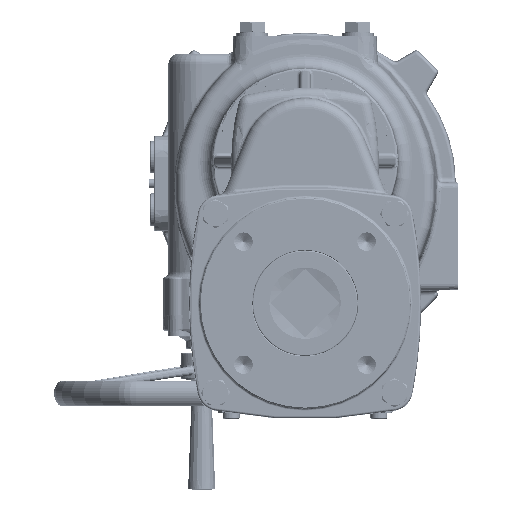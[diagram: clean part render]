
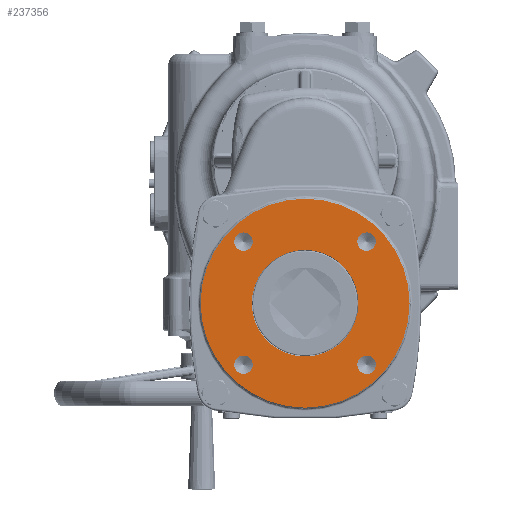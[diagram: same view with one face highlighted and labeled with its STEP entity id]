
A CAD part, front view. The second image highlights one B-rep face of the part: STEP entity #237356.
In plain terms, the highlighted planar face has unit normal (0, -1, 0).
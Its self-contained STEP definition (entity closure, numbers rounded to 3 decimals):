
#273 = AXIS2_PLACEMENT_3D ( 'NONE', #225780, #93295, #248047 ) ;
#1851 = VERTEX_POINT ( 'NONE', #142660 ) ;
#8616 = FACE_OUTER_BOUND ( 'NONE', #153223, .T. ) ;
#9376 = CARTESIAN_POINT ( 'NONE',  ( -50.5, -391., -113.5 ) ) ;
#9702 = AXIS2_PLACEMENT_3D ( 'NONE', #71869, #226482, #94020 ) ;
#10871 = EDGE_CURVE ( 'NONE', #113179, #77395, #225653, .T. ) ;
#11140 = ORIENTED_EDGE ( 'NONE', *, *, #191291, .F. ) ;
#11917 = DIRECTION ( 'NONE',  ( -1., 0., 0. ) ) ;
#12105 = AXIS2_PLACEMENT_3D ( 'NONE', #31600, #186193, #53893 ) ;
#15472 = FACE_BOUND ( 'NONE', #57811, .T. ) ;
#17731 = CARTESIAN_POINT ( 'NONE',  ( 50.5, -391., -113.5 ) ) ;
#17769 = CARTESIAN_POINT ( 'NONE',  ( -58.336, -391., -55.164 ) ) ;
#23621 = VERTEX_POINT ( 'NONE', #282229 ) ;
#23957 = VERTEX_POINT ( 'NONE', #105025 ) ;
#28973 = CIRCLE ( 'NONE', #255206, 8.75 ) ;
#30115 = CIRCLE ( 'NONE', #222055, 50.5 ) ;
#31600 = CARTESIAN_POINT ( 'NONE',  ( 0., -391., -113.5 ) ) ;
#33805 = ORIENTED_EDGE ( 'NONE', *, *, #251068, .F. ) ;
#40038 = DIRECTION ( 'NONE',  ( -1., 0., 0. ) ) ;
#40436 = DIRECTION ( 'NONE',  ( 0., 1., 0. ) ) ;
#40715 = CARTESIAN_POINT ( 'NONE',  ( 0., -391., -113.5 ) ) ;
#43686 = CIRCLE ( 'NONE', #275882, 8.75 ) ;
#45930 = CIRCLE ( 'NONE', #273, 8.75 ) ;
#47025 = ORIENTED_EDGE ( 'NONE', *, *, #231242, .F. ) ;
#51048 = CARTESIAN_POINT ( 'NONE',  ( -58.336, -391., -171.836 ) ) ;
#52333 = ORIENTED_EDGE ( 'NONE', *, *, #145615, .F. ) ;
#53572 = ORIENTED_EDGE ( 'NONE', *, *, #135986, .F. ) ;
#53893 = DIRECTION ( 'NONE',  ( 1., 0., 0. ) ) ;
#56662 = VERTEX_POINT ( 'NONE', #124681 ) ;
#57264 = AXIS2_PLACEMENT_3D ( 'NONE', #17769, #172373, #40038 ) ;
#57811 = EDGE_LOOP ( 'NONE', ( #52333, #53572 ) ) ;
#62399 = ORIENTED_EDGE ( 'NONE', *, *, #156889, .T. ) ;
#62968 = DIRECTION ( 'NONE',  ( 1., 0., 0. ) ) ;
#66608 = CIRCLE ( 'NONE', #57264, 8.75 ) ;
#67405 = FACE_BOUND ( 'NONE', #161795, .T. ) ;
#68790 = EDGE_LOOP ( 'NONE', ( #47025, #233754 ) ) ;
#70767 = ORIENTED_EDGE ( 'NONE', *, *, #200380, .F. ) ;
#71869 = CARTESIAN_POINT ( 'NONE',  ( -58.336, -391., -55.164 ) ) ;
#73255 = DIRECTION ( 'NONE',  ( -1., 0., 0. ) ) ;
#77395 = VERTEX_POINT ( 'NONE', #200507 ) ;
#77472 = ORIENTED_EDGE ( 'NONE', *, *, #10871, .T. ) ;
#78946 = PLANE ( 'NONE',  #168541 ) ;
#79116 = EDGE_CURVE ( 'NONE', #269237, #274602, #137482, .T. ) ;
#79529 = CARTESIAN_POINT ( 'NONE',  ( 58.336, -391., -171.836 ) ) ;
#79884 = EDGE_LOOP ( 'NONE', ( #70767, #11140 ) ) ;
#93295 = DIRECTION ( 'NONE',  ( 0., -1., 0. ) ) ;
#94020 = DIRECTION ( 'NONE',  ( -1., 0., 0. ) ) ;
#100639 = CARTESIAN_POINT ( 'NONE',  ( 49.586, -391., -171.836 ) ) ;
#100711 = CARTESIAN_POINT ( 'NONE',  ( 58.336, -391., -171.836 ) ) ;
#101087 = EDGE_CURVE ( 'NONE', #233867, #209056, #230371, .T. ) ;
#101723 = DIRECTION ( 'NONE',  ( -1., 0., 0. ) ) ;
#102074 = DIRECTION ( 'NONE',  ( 0., 1., 0. ) ) ;
#105025 = CARTESIAN_POINT ( 'NONE',  ( 49.586, -391., -55.164 ) ) ;
#108963 = AXIS2_PLACEMENT_3D ( 'NONE', #258632, #126205, #280855 ) ;
#109775 = EDGE_LOOP ( 'NONE', ( #112139, #33805 ) ) ;
#112139 = ORIENTED_EDGE ( 'NONE', *, *, #237957, .F. ) ;
#113179 = VERTEX_POINT ( 'NONE', #252216 ) ;
#115925 = DIRECTION ( 'NONE',  ( 0., -1., 0. ) ) ;
#122994 = DIRECTION ( 'NONE',  ( -1., 0., 0. ) ) ;
#124681 = CARTESIAN_POINT ( 'NONE',  ( -49.586, -391., -171.836 ) ) ;
#125133 = AXIS2_PLACEMENT_3D ( 'NONE', #248328, #115925, #270565 ) ;
#126099 = FACE_BOUND ( 'NONE', #109775, .T. ) ;
#126205 = DIRECTION ( 'NONE',  ( 0., -1., 0. ) ) ;
#135986 = EDGE_CURVE ( 'NONE', #56662, #23621, #28973, .T. ) ;
#137482 = CIRCLE ( 'NONE', #9702, 8.75 ) ;
#142660 = CARTESIAN_POINT ( 'NONE',  ( 67.086, -391., -55.164 ) ) ;
#144228 = DIRECTION ( 'NONE',  ( 0., -1., 0. ) ) ;
#144549 = CARTESIAN_POINT ( 'NONE',  ( -49.586, -391., -55.164 ) ) ;
#145338 = EDGE_CURVE ( 'NONE', #209056, #233867, #30115, .T. ) ;
#145615 = EDGE_CURVE ( 'NONE', #23621, #56662, #43686, .T. ) ;
#147277 = CIRCLE ( 'NONE', #160951, 8.75 ) ;
#153223 = EDGE_LOOP ( 'NONE', ( #62399, #77472 ) ) ;
#156889 = EDGE_CURVE ( 'NONE', #77395, #113179, #213566, .T. ) ;
#157586 = AXIS2_PLACEMENT_3D ( 'NONE', #79529, #234223, #101723 ) ;
#160951 = AXIS2_PLACEMENT_3D ( 'NONE', #100711, #255457, #122994 ) ;
#161795 = EDGE_LOOP ( 'NONE', ( #283611, #213745 ) ) ;
#168541 = AXIS2_PLACEMENT_3D ( 'NONE', #234563, #102074, #256811 ) ;
#172373 = DIRECTION ( 'NONE',  ( 0., -1., 0. ) ) ;
#172805 = CARTESIAN_POINT ( 'NONE',  ( 0., -391., -113.5 ) ) ;
#184920 = FACE_BOUND ( 'NONE', #79884, .T. ) ;
#186193 = DIRECTION ( 'NONE',  ( 0., -1., 0. ) ) ;
#191291 = EDGE_CURVE ( 'NONE', #1851, #23957, #234944, .T. ) ;
#194980 = DIRECTION ( 'NONE',  ( 1., 0., 0. ) ) ;
#195276 = DIRECTION ( 'NONE',  ( 0., 1., 0. ) ) ;
#200380 = EDGE_CURVE ( 'NONE', #23957, #1851, #45930, .T. ) ;
#200507 = CARTESIAN_POINT ( 'NONE',  ( 99., -391., -113.5 ) ) ;
#202068 = CARTESIAN_POINT ( 'NONE',  ( 67.086, -391., -171.836 ) ) ;
#204958 = CARTESIAN_POINT ( 'NONE',  ( -67.086, -391., -55.164 ) ) ;
#205631 = DIRECTION ( 'NONE',  ( 0., -1., 0. ) ) ;
#209056 = VERTEX_POINT ( 'NONE', #17731 ) ;
#213566 = CIRCLE ( 'NONE', #12105, 99. ) ;
#213745 = ORIENTED_EDGE ( 'NONE', *, *, #145338, .T. ) ;
#217633 = AXIS2_PLACEMENT_3D ( 'NONE', #40715, #195276, #62968 ) ;
#220945 = VERTEX_POINT ( 'NONE', #202068 ) ;
#222055 = AXIS2_PLACEMENT_3D ( 'NONE', #172805, #40436, #194980 ) ;
#225653 = CIRCLE ( 'NONE', #125133, 99. ) ;
#225780 = CARTESIAN_POINT ( 'NONE',  ( 58.336, -391., -55.164 ) ) ;
#226482 = DIRECTION ( 'NONE',  ( 0., -1., 0. ) ) ;
#230348 = VERTEX_POINT ( 'NONE', #100639 ) ;
#230371 = CIRCLE ( 'NONE', #217633, 50.5 ) ;
#231242 = EDGE_CURVE ( 'NONE', #274602, #269237, #66608, .T. ) ;
#233754 = ORIENTED_EDGE ( 'NONE', *, *, #79116, .F. ) ;
#233867 = VERTEX_POINT ( 'NONE', #9376 ) ;
#234223 = DIRECTION ( 'NONE',  ( 0., -1., 0. ) ) ;
#234563 = CARTESIAN_POINT ( 'NONE',  ( 0., -391., -163.5 ) ) ;
#234944 = CIRCLE ( 'NONE', #108963, 8.75 ) ;
#237356 = ADVANCED_FACE ( 'NONE', ( #184920, #126099, #15472, #243766, #67405, #8616 ), #78946, .F. ) ;
#237957 = EDGE_CURVE ( 'NONE', #230348, #220945, #243825, .T. ) ;
#243766 = FACE_BOUND ( 'NONE', #68790, .T. ) ;
#243825 = CIRCLE ( 'NONE', #157586, 8.75 ) ;
#248047 = DIRECTION ( 'NONE',  ( -1., 0., 0. ) ) ;
#248328 = CARTESIAN_POINT ( 'NONE',  ( 0., -391., -113.5 ) ) ;
#251068 = EDGE_CURVE ( 'NONE', #220945, #230348, #147277, .T. ) ;
#252216 = CARTESIAN_POINT ( 'NONE',  ( -99., -391., -113.5 ) ) ;
#255206 = AXIS2_PLACEMENT_3D ( 'NONE', #276751, #144228, #11917 ) ;
#255457 = DIRECTION ( 'NONE',  ( 0., -1., 0. ) ) ;
#256811 = DIRECTION ( 'NONE',  ( 1., 0., 0. ) ) ;
#258632 = CARTESIAN_POINT ( 'NONE',  ( 58.336, -391., -55.164 ) ) ;
#269237 = VERTEX_POINT ( 'NONE', #144549 ) ;
#270565 = DIRECTION ( 'NONE',  ( 1., 0., 0. ) ) ;
#274602 = VERTEX_POINT ( 'NONE', #204958 ) ;
#275882 = AXIS2_PLACEMENT_3D ( 'NONE', #51048, #205631, #73255 ) ;
#276751 = CARTESIAN_POINT ( 'NONE',  ( -58.336, -391., -171.836 ) ) ;
#280855 = DIRECTION ( 'NONE',  ( -1., 0., 0. ) ) ;
#282229 = CARTESIAN_POINT ( 'NONE',  ( -67.086, -391., -171.836 ) ) ;
#283611 = ORIENTED_EDGE ( 'NONE', *, *, #101087, .T. ) ;
